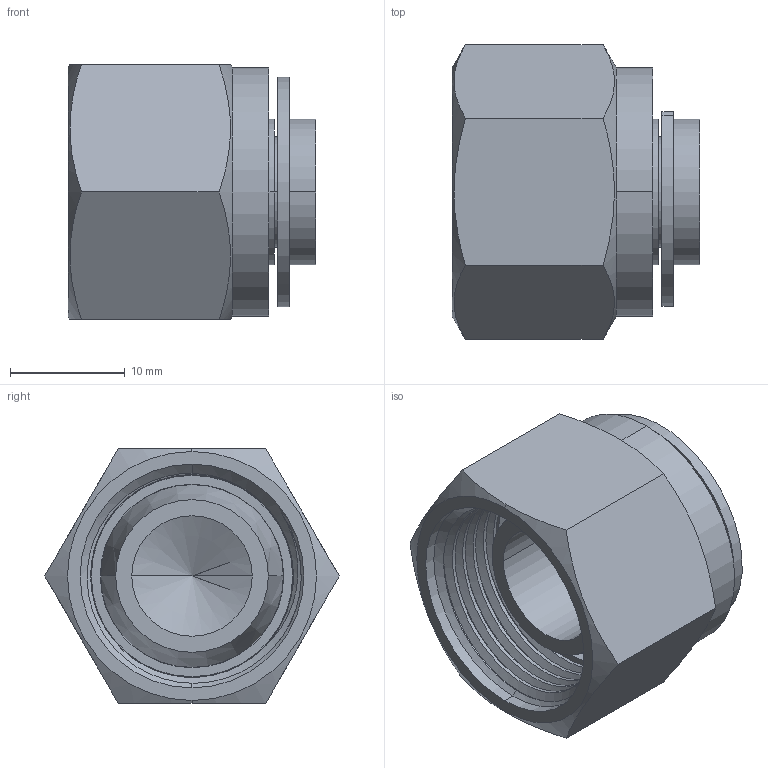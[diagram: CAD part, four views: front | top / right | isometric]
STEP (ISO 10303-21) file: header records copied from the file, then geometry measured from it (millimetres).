
FILE_DESCRIPTION (( 'STEP AP203' ), '1' );
FILE_NAME ('DBA08 SS.STEP', '2009-09-08T04:41:56', ( ' ' ), ( '' ), 'SwSTEP 2.0', 'SolidWorks 2008', '' );
FILE_SCHEMA (( 'CONFIG_CONTROL_DESIGN' ));
Length unit declared in the file: millimetre
Products named in the file (1): DBA08 SS
Bounding box: 21.58 x 25.67 x 22.23 mm (x, y, z)
Volume: 5240.4 mm3; surface area: 4375 mm2
Topology: 2 solids, 2 shells, 82 faces, 208 edges, 135 vertices
Faces by surface type: cylinder 44, plane 23, cone 12, bspline 3
Entity records: 3494 total; most frequent: CARTESIAN_POINT 1511, ORIENTED_EDGE 412, DIRECTION 391, EDGE_CURVE 206, AXIS2_PLACEMENT_3D 154, VERTEX_POINT 135, EDGE_LOOP 89, VECTOR 83
